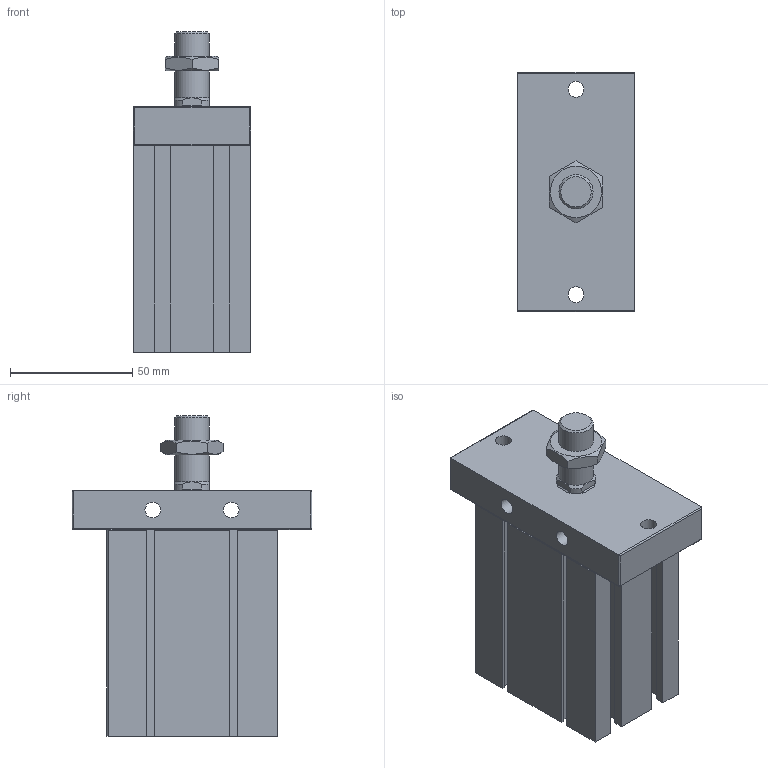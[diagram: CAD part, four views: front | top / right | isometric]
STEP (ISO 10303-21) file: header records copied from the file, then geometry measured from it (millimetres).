
FILE_DESCRIPTION((''),'2;1');
FILE_NAME('J:\3D電子目錄\氣缸\ND\ND\ND40-FB\ND40x50-FB.stp','2008-03-13T09:22:15',('66-2f-008'),(''),'Autodesk Inventor 11','Autodesk Inventor 11','');
FILE_SCHEMA(('AUTOMOTIVE_DESIGN { 1 0 10303 214 1 1 1 1 }'));
Length unit declared in the file: millimetre
Products named in the file (1): ND40-FB
Bounding box: 48 x 98 x 131 mm (x, y, z)
Volume: 328527.9 mm3; surface area: 51760.7 mm2
Topology: 2 solids, 2 shells, 153 faces, 391 edges, 251 vertices
Faces by surface type: plane 99, cylinder 23, cone 14, bspline 14, sphere 2, torus 1
Full cylindrical faces by diameter (mm): 2.2 x2, 6.5 x2, 14 x2, 29 x1, 42 x1, 44.5 x1
Entity records: 4520 total; most frequent: CARTESIAN_POINT 976, ORIENTED_EDGE 708, DIRECTION 698, EDGE_CURVE 354, VECTOR 250, LINE 250, VERTEX_POINT 246, AXIS2_PLACEMENT_3D 224
